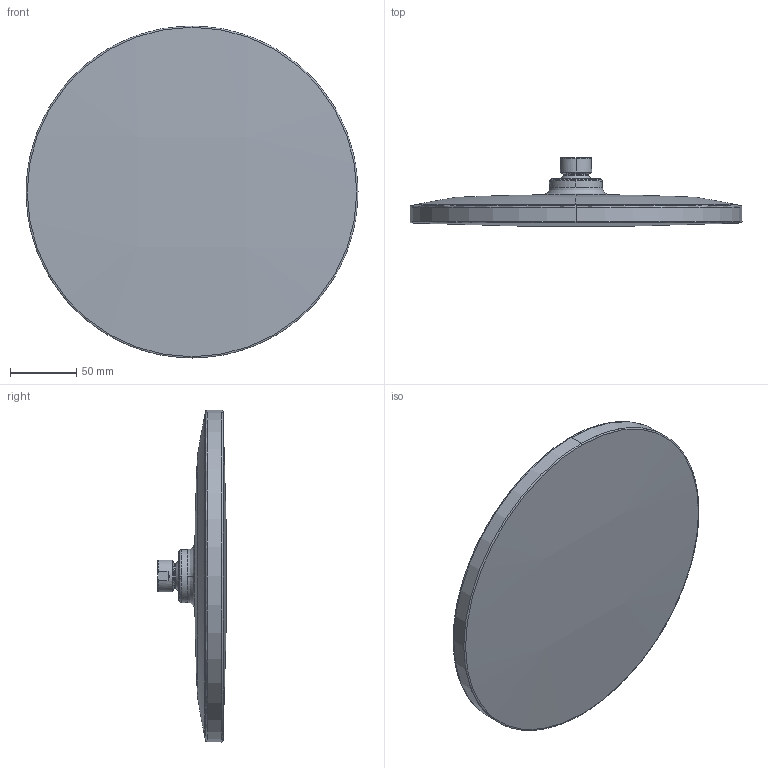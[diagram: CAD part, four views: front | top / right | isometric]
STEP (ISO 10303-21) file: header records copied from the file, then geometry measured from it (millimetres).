
FILE_DESCRIPTION (( 'STEP AP203' ), '1' );
FILE_NAME ('272080N(2023).STEP', '2023-04-13T11:14:58', ( '' ), ( '' ), 'SwSTEP 2.0', 'SolidWorks 2016', '' );
FILE_SCHEMA (( 'CONFIG_CONTROL_DESIGN' ));
Length unit declared in the file: millimetre
Products named in the file (1): 272080N(2023)
Bounding box: 249.98 x 51.29 x 249.98 mm (x, y, z)
Volume: 990279 mm3; surface area: 110570.7 mm2
Topology: 1 solids, 1 shells, 64 faces, 148 edges, 89 vertices
Faces by surface type: bspline 39, cylinder 8, cone 7, plane 6, torus 4
Entity records: 4089 total; most frequent: CARTESIAN_POINT 2765, ORIENTED_EDGE 296, DIRECTION 213, EDGE_CURVE 148, AXIS2_PLACEMENT_3D 93, VERTEX_POINT 89, CIRCLE 67, EDGE_LOOP 67
